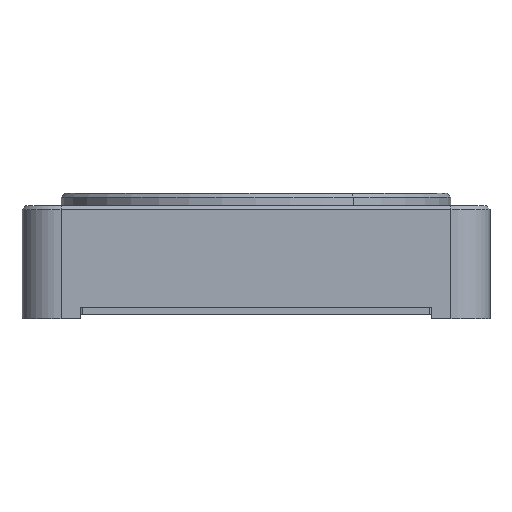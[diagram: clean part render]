
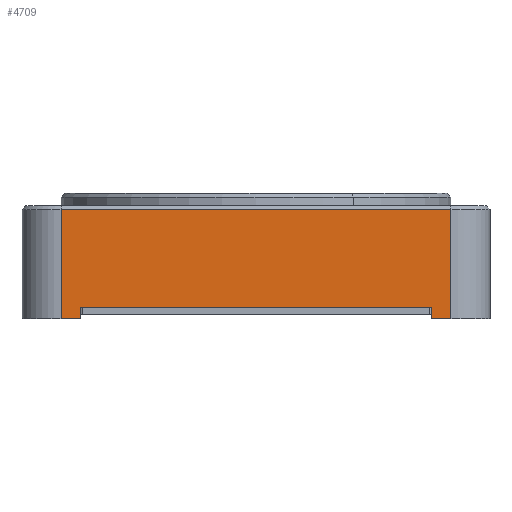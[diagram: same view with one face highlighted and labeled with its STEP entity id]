
A CAD part, front view. The second image highlights one B-rep face of the part: STEP entity #4709.
In plain terms, the highlighted planar face has unit normal (0, -1, 0).
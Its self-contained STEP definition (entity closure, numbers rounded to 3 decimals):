
#201 = CARTESIAN_POINT ( 'NONE',  ( -25., -30., 0. ) ) ;
#502 = DIRECTION ( 'NONE',  ( 1., 0., 0. ) ) ;
#1104 = DIRECTION ( 'NONE',  ( 0., 0., 1. ) ) ;
#1614 = VERTEX_POINT ( 'NONE', #7074 ) ;
#1696 = CARTESIAN_POINT ( 'NONE',  ( 25., -30., 14. ) ) ;
#2344 = VECTOR ( 'NONE', #8336, 1000. ) ;
#2624 = ORIENTED_EDGE ( 'NONE', *, *, #22371, .T. ) ;
#3316 = DIRECTION ( 'NONE',  ( -1., 0., 0. ) ) ;
#3486 = DIRECTION ( 'NONE',  ( 0., 1., 0. ) ) ;
#4301 = AXIS2_PLACEMENT_3D ( 'NONE', #24623, #3486, #22466 ) ;
#4709 = ADVANCED_FACE ( 'NONE', ( #19803 ), #17870, .F. ) ;
#5208 = LINE ( 'NONE', #12950, #13674 ) ;
#5222 = EDGE_LOOP ( 'NONE', ( #21730, #21043, #8997, #12097, #12553, #13757, #8537, #2624 ) ) ;
#5930 = EDGE_CURVE ( 'NONE', #21815, #19375, #6154, .T. ) ;
#6154 = LINE ( 'NONE', #9864, #21842 ) ;
#7074 = CARTESIAN_POINT ( 'NONE',  ( -25., -30., 14. ) ) ;
#7659 = DIRECTION ( 'NONE',  ( 0., 0., -1. ) ) ;
#7796 = CARTESIAN_POINT ( 'NONE',  ( -22.5, -30., 1.5 ) ) ;
#7924 = DIRECTION ( 'NONE',  ( 0., 0., 1. ) ) ;
#8283 = CARTESIAN_POINT ( 'NONE',  ( 25., -30., 0. ) ) ;
#8336 = DIRECTION ( 'NONE',  ( 1., 0., 0. ) ) ;
#8435 = CARTESIAN_POINT ( 'NONE',  ( -22.5, -30., 14.5 ) ) ;
#8537 = ORIENTED_EDGE ( 'NONE', *, *, #5930, .T. ) ;
#8997 = ORIENTED_EDGE ( 'NONE', *, *, #12411, .T. ) ;
#9864 = CARTESIAN_POINT ( 'NONE',  ( 22.5, -30., 14.5 ) ) ;
#10123 = LINE ( 'NONE', #13667, #12462 ) ;
#10580 = CARTESIAN_POINT ( 'NONE',  ( -22.5, -30., 0. ) ) ;
#11368 = CARTESIAN_POINT ( 'NONE',  ( 22.5, -30., 0. ) ) ;
#11468 = CARTESIAN_POINT ( 'NONE',  ( 22.5, -30., 1.5 ) ) ;
#12097 = ORIENTED_EDGE ( 'NONE', *, *, #15559, .T. ) ;
#12261 = LINE ( 'NONE', #8435, #16795 ) ;
#12411 = EDGE_CURVE ( 'NONE', #1614, #22512, #22240, .T. ) ;
#12462 = VECTOR ( 'NONE', #502, 1000. ) ;
#12553 = ORIENTED_EDGE ( 'NONE', *, *, #15923, .T. ) ;
#12950 = CARTESIAN_POINT ( 'NONE',  ( -25., -30., 14. ) ) ;
#13429 = EDGE_CURVE ( 'NONE', #17015, #21815, #10123, .T. ) ;
#13538 = CARTESIAN_POINT ( 'NONE',  ( 25., -30., 14.5 ) ) ;
#13667 = CARTESIAN_POINT ( 'NONE',  ( -30., -30., 1.5 ) ) ;
#13674 = VECTOR ( 'NONE', #3316, 1000. ) ;
#13757 = ORIENTED_EDGE ( 'NONE', *, *, #13429, .T. ) ;
#14311 = LINE ( 'NONE', #24140, #24640 ) ;
#15559 = EDGE_CURVE ( 'NONE', #22512, #23706, #21505, .T. ) ;
#15923 = EDGE_CURVE ( 'NONE', #23706, #17015, #12261, .T. ) ;
#16290 = VERTEX_POINT ( 'NONE', #1696 ) ;
#16323 = LINE ( 'NONE', #13538, #17206 ) ;
#16795 = VECTOR ( 'NONE', #1104, 1000. ) ;
#17015 = VERTEX_POINT ( 'NONE', #7796 ) ;
#17025 = EDGE_CURVE ( 'NONE', #18241, #16290, #16323, .T. ) ;
#17206 = VECTOR ( 'NONE', #7924, 1000. ) ;
#17633 = CARTESIAN_POINT ( 'NONE',  ( -30., -30., 0. ) ) ;
#17870 = PLANE ( 'NONE',  #4301 ) ;
#18241 = VERTEX_POINT ( 'NONE', #8283 ) ;
#19375 = VERTEX_POINT ( 'NONE', #11368 ) ;
#19803 = FACE_OUTER_BOUND ( 'NONE', #5222, .T. ) ;
#20310 = DIRECTION ( 'NONE',  ( 1., 0., 0. ) ) ;
#20569 = VECTOR ( 'NONE', #22364, 1000. ) ;
#21043 = ORIENTED_EDGE ( 'NONE', *, *, #23831, .T. ) ;
#21505 = LINE ( 'NONE', #17633, #2344 ) ;
#21730 = ORIENTED_EDGE ( 'NONE', *, *, #17025, .T. ) ;
#21815 = VERTEX_POINT ( 'NONE', #11468 ) ;
#21842 = VECTOR ( 'NONE', #7659, 1000. ) ;
#22240 = LINE ( 'NONE', #24036, #20569 ) ;
#22364 = DIRECTION ( 'NONE',  ( 0., 0., -1. ) ) ;
#22371 = EDGE_CURVE ( 'NONE', #19375, #18241, #14311, .T. ) ;
#22466 = DIRECTION ( 'NONE',  ( 0., 0., 1. ) ) ;
#22512 = VERTEX_POINT ( 'NONE', #201 ) ;
#23706 = VERTEX_POINT ( 'NONE', #10580 ) ;
#23831 = EDGE_CURVE ( 'NONE', #16290, #1614, #5208, .T. ) ;
#24036 = CARTESIAN_POINT ( 'NONE',  ( -25., -30., 14.5 ) ) ;
#24140 = CARTESIAN_POINT ( 'NONE',  ( -30., -30., 0. ) ) ;
#24623 = CARTESIAN_POINT ( 'NONE',  ( -30., -30., 14.5 ) ) ;
#24640 = VECTOR ( 'NONE', #20310, 1000. ) ;
